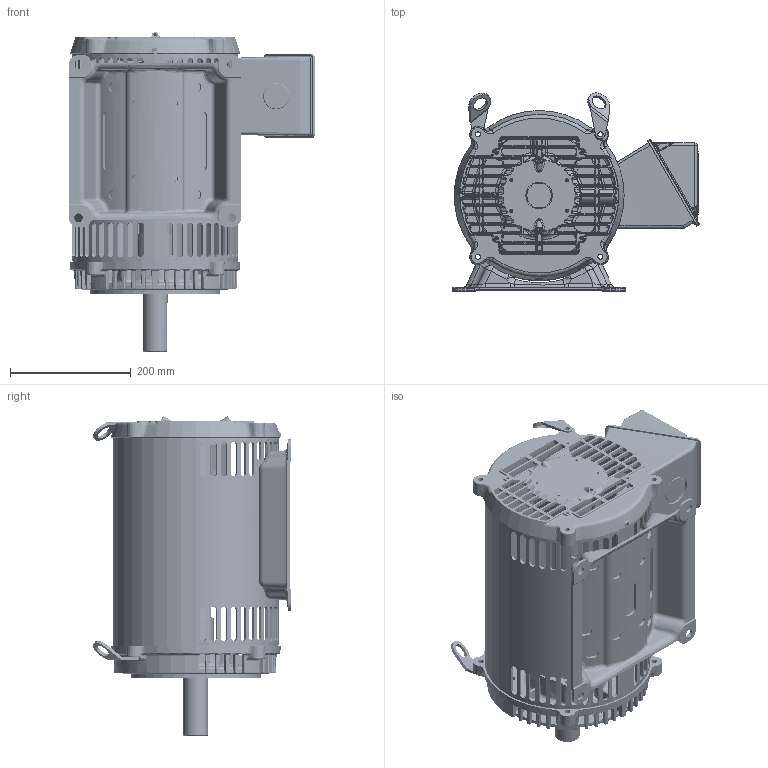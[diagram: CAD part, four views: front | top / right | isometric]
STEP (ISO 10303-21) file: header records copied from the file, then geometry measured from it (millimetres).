
FILE_DESCRIPTION((''),'2;1');
FILE_NAME('250_ODP_CFACE_ASM_ASM','2018-10-10T07:49:32',('emd2341'),('Nidec Motor Corporation'),'CREO PARAMETRIC BY PTC INC, 2018020','CREO PARAMETRIC BY PTC INC, 2018020','');
FILE_SCHEMA(('CONFIG_CONTROL_DESIGN'));
Length unit declared in the file: inch
Products named in the file (12): 2034526_AF0; 2035295-BKT_AF0; 2033996-005_AF0; 2028415_ASM; 2046094; 0183520; 2051872; 0369733; 0380720; 0364282; 0364292; 250_ODP_CFACE_ASM_ASM
Assembly tree (12 placements, depth 3):
  250_ODP_CFACE_ASM_ASM
    2034526_AF0
    2028415_ASM
      2035295-BKT_AF0
      2033996-005_AF0
    2046094
    0183520
    2051872
    0369733  x2
    0380720
    0364282
    0364292
Bounding box: 408.24 x 328.52 x 530.13 mm (x, y, z)
Volume: 4569206.3 mm3; surface area: 1576100 mm2
Topology: 13 solids, 19 shells, 4151 faces, 10281 edges, 6135 vertices
Faces by surface type: bspline 1477, cylinder 1070, plane 781, torus 384, cone 342, sphere 89, extrusion 8
Entity records: 205594 total; most frequent: CARTESIAN_POINT 118054, ORIENTED_EDGE 20412, DIRECTION 15265, EDGE_CURVE 10218, VERTEX_POINT 6111, AXIS2_PLACEMENT_3D 6096, EDGE_LOOP 4445, FACE_OUTER_BOUND 4133
